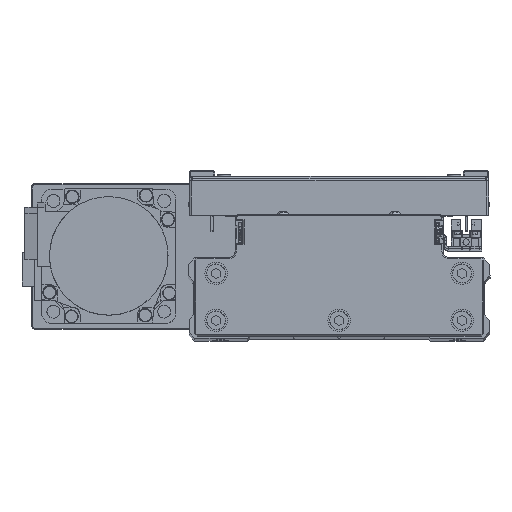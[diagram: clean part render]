
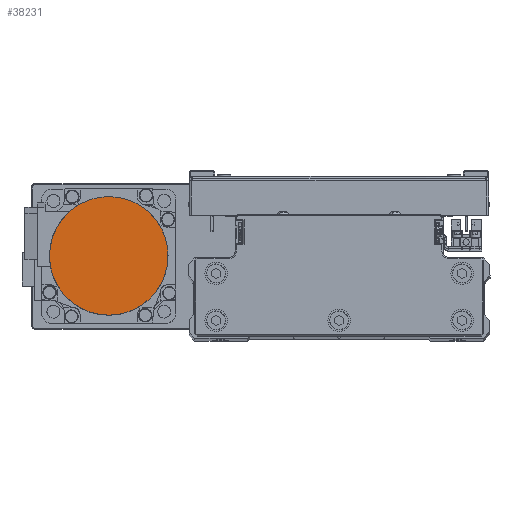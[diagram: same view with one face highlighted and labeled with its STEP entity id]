
A CAD part, top view. The second image highlights one B-rep face of the part: STEP entity #38231.
In plain terms, the highlighted planar face has unit normal (0, 0, 1) as drawn and (0, 0, -1) by its records, which use the part's own axes.
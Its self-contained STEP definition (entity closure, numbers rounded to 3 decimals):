
#18 = CARTESIAN_POINT ( 'NONE',  ( -3.469, -26.329, -109.7 ) ) ;
#230 = CARTESIAN_POINT ( 'NONE',  ( 23.819, -11.744, -109.7 ) ) ;
#2570 = CARTESIAN_POINT ( 'NONE',  ( 26.5, 0., -109.7 ) ) ;
#2791 = CARTESIAN_POINT ( 'NONE',  ( 8.539, 25.147, -109.7 ) ) ;
#3022 = CARTESIAN_POINT ( 'NONE',  ( -21.07, 16.165, -109.7 ) ) ;
#3377 = CARTESIAN_POINT ( 'NONE',  ( -11.744, -23.819, -109.7 ) ) ;
#3428 = EDGE_CURVE ( 'NONE', #27092, #23345, #10642, .T. ) ;
#3604 = CARTESIAN_POINT ( 'NONE',  ( 19.965, -17.512, -109.7 ) ) ;
#5071 = DIRECTION ( 'NONE',  ( 1., 0., 0. ) ) ;
#6131 = CARTESIAN_POINT ( 'NONE',  ( 16.165, 21.07, -109.7 ) ) ;
#6354 = CARTESIAN_POINT ( 'NONE',  ( -16.165, 21.07, -109.7 ) ) ;
#6704 = CARTESIAN_POINT ( 'NONE',  ( -17.512, -19.965, -109.7 ) ) ;
#6933 = CARTESIAN_POINT ( 'NONE',  ( 13.28, -22.998, -109.7 ) ) ;
#7859 = EDGE_LOOP ( 'NONE', ( #26247, #33723 ) ) ;
#8393 = PLANE ( 'NONE',  #39452 ) ;
#9462 = CARTESIAN_POINT ( 'NONE',  ( 21.07, 16.165, -109.7 ) ) ;
#9687 = CARTESIAN_POINT ( 'NONE',  ( -8.539, 25.147, -109.7 ) ) ;
#9911 = CARTESIAN_POINT ( 'NONE',  ( -26.5, 0., -109.7 ) ) ;
#10060 = CARTESIAN_POINT ( 'NONE',  ( -22.998, -13.28, -109.7 ) ) ;
#10271 = CARTESIAN_POINT ( 'NONE',  ( 6.871, -25.652, -109.7 ) ) ;
#10498 = CARTESIAN_POINT ( 'NONE',  ( 26.5, -1.734, -109.7 ) ) ;
#10642 = B_SPLINE_CURVE_WITH_KNOTS ( 'NONE', 3,
 ( #2570, #16158, #29721, #43285, #12819, #26389, #39949, #9462, #23044, #36622, #6131, #19712, #33263, #2791, #16381, #29946, #43510, #13033, #26602, #40174, #9687, #23265, #36847, #6354, #19935, #33492, #3022, #16605, #30160, #43727, #13261, #26832, #40399, #9911 ),
 .UNSPECIFIED., .F., .F.,
 ( 4, 2, 2, 2, 2, 2, 2, 2, 2, 2, 2, 2, 2, 2, 2, 2, 4 ),
 ( 0., 0.062, 0.125, 0.187, 0.25, 0.312, 0.375, 0.437, 0.5, 0.562, 0.625, 0.687, 0.75, 0.813, 0.875, 0.938, 1. ),
 .UNSPECIFIED. ) ;
#12396 = B_SPLINE_CURVE_WITH_KNOTS ( 'NONE', 3,
 ( #16742, #30314, #43865, #13395, #26968, #40545, #10060, #23628, #37205, #6704, #20293, #33857, #3377, #16965, #30531, #18, #13624, #27197, #40759, #10271, #23843, #37425, #6933, #20520, #34081, #3604, #17186, #30758, #230, #13835, #27414, #40984, #10498, #24064 ),
 .UNSPECIFIED., .F., .F.,
 ( 4, 2, 2, 2, 2, 2, 2, 2, 2, 2, 2, 2, 2, 2, 2, 2, 4 ),
 ( 0., 0.063, 0.125, 0.188, 0.25, 0.312, 0.375, 0.437, 0.5, 0.562, 0.625, 0.687, 0.75, 0.813, 0.875, 0.938, 1. ),
 .UNSPECIFIED. ) ;
#12819 = CARTESIAN_POINT ( 'NONE',  ( 25.147, 8.539, -109.7 ) ) ;
#13033 = CARTESIAN_POINT ( 'NONE',  ( -1.734, 26.5, -109.7 ) ) ;
#13261 = CARTESIAN_POINT ( 'NONE',  ( -25.652, 6.871, -109.7 ) ) ;
#13395 = CARTESIAN_POINT ( 'NONE',  ( -25.652, -6.871, -109.7 ) ) ;
#13624 = CARTESIAN_POINT ( 'NONE',  ( -1.734, -26.5, -109.7 ) ) ;
#13835 = CARTESIAN_POINT ( 'NONE',  ( 25.147, -8.539, -109.7 ) ) ;
#16158 = CARTESIAN_POINT ( 'NONE',  ( 26.5, 1.734, -109.7 ) ) ;
#16315 = CARTESIAN_POINT ( 'NONE',  ( 26.5, 0., -109.7 ) ) ;
#16381 = CARTESIAN_POINT ( 'NONE',  ( 6.871, 25.652, -109.7 ) ) ;
#16605 = CARTESIAN_POINT ( 'NONE',  ( -22.998, 13.28, -109.7 ) ) ;
#16742 = CARTESIAN_POINT ( 'NONE',  ( -26.5, 0., -109.7 ) ) ;
#16965 = CARTESIAN_POINT ( 'NONE',  ( -8.539, -25.147, -109.7 ) ) ;
#17186 = CARTESIAN_POINT ( 'NONE',  ( 21.07, -16.165, -109.7 ) ) ;
#19712 = CARTESIAN_POINT ( 'NONE',  ( 13.28, 22.998, -109.7 ) ) ;
#19935 = CARTESIAN_POINT ( 'NONE',  ( -17.512, 19.965, -109.7 ) ) ;
#20293 = CARTESIAN_POINT ( 'NONE',  ( -16.165, -21.07, -109.7 ) ) ;
#20520 = CARTESIAN_POINT ( 'NONE',  ( 16.165, -21.07, -109.7 ) ) ;
#21978 = CARTESIAN_POINT ( 'NONE',  ( 0., 0., -109.7 ) ) ;
#23044 = CARTESIAN_POINT ( 'NONE',  ( 19.965, 17.512, -109.7 ) ) ;
#23265 = CARTESIAN_POINT ( 'NONE',  ( -11.744, 23.819, -109.7 ) ) ;
#23345 = VERTEX_POINT ( 'NONE', #36558 ) ;
#23628 = CARTESIAN_POINT ( 'NONE',  ( -21.07, -16.165, -109.7 ) ) ;
#23843 = CARTESIAN_POINT ( 'NONE',  ( 8.539, -25.147, -109.7 ) ) ;
#24064 = CARTESIAN_POINT ( 'NONE',  ( 26.5, 0., -109.7 ) ) ;
#26247 = ORIENTED_EDGE ( 'NONE', *, *, #3428, .F. ) ;
#26389 = CARTESIAN_POINT ( 'NONE',  ( 23.819, 11.744, -109.7 ) ) ;
#26602 = CARTESIAN_POINT ( 'NONE',  ( -3.469, 26.329, -109.7 ) ) ;
#26832 = CARTESIAN_POINT ( 'NONE',  ( -26.329, 3.469, -109.7 ) ) ;
#26968 = CARTESIAN_POINT ( 'NONE',  ( -25.147, -8.539, -109.7 ) ) ;
#27092 = VERTEX_POINT ( 'NONE', #16315 ) ;
#27197 = CARTESIAN_POINT ( 'NONE',  ( 1.734, -26.5, -109.7 ) ) ;
#27414 = CARTESIAN_POINT ( 'NONE',  ( 25.652, -6.871, -109.7 ) ) ;
#29721 = CARTESIAN_POINT ( 'NONE',  ( 26.329, 3.469, -109.7 ) ) ;
#29946 = CARTESIAN_POINT ( 'NONE',  ( 3.469, 26.329, -109.7 ) ) ;
#30160 = CARTESIAN_POINT ( 'NONE',  ( -23.819, 11.744, -109.7 ) ) ;
#30314 = CARTESIAN_POINT ( 'NONE',  ( -26.5, -1.734, -109.7 ) ) ;
#30531 = CARTESIAN_POINT ( 'NONE',  ( -6.871, -25.652, -109.7 ) ) ;
#30758 = CARTESIAN_POINT ( 'NONE',  ( 22.998, -13.28, -109.7 ) ) ;
#33263 = CARTESIAN_POINT ( 'NONE',  ( 11.744, 23.819, -109.7 ) ) ;
#33492 = CARTESIAN_POINT ( 'NONE',  ( -19.965, 17.512, -109.7 ) ) ;
#33723 = ORIENTED_EDGE ( 'NONE', *, *, #40335, .F. ) ;
#33857 = CARTESIAN_POINT ( 'NONE',  ( -13.28, -22.998, -109.7 ) ) ;
#34081 = CARTESIAN_POINT ( 'NONE',  ( 17.512, -19.965, -109.7 ) ) ;
#35552 = DIRECTION ( 'NONE',  ( 0., 0., 1. ) ) ;
#36558 = CARTESIAN_POINT ( 'NONE',  ( -26.5, 0., -109.7 ) ) ;
#36622 = CARTESIAN_POINT ( 'NONE',  ( 17.512, 19.965, -109.7 ) ) ;
#36847 = CARTESIAN_POINT ( 'NONE',  ( -13.28, 22.998, -109.7 ) ) ;
#37205 = CARTESIAN_POINT ( 'NONE',  ( -19.965, -17.512, -109.7 ) ) ;
#37425 = CARTESIAN_POINT ( 'NONE',  ( 11.744, -23.819, -109.7 ) ) ;
#38231 = ADVANCED_FACE ( 'NONE', ( #38881 ), #8393, .F. ) ;
#38881 = FACE_OUTER_BOUND ( 'NONE', #7859, .T. ) ;
#39452 = AXIS2_PLACEMENT_3D ( 'NONE', #21978, #35552, #5071 ) ;
#39949 = CARTESIAN_POINT ( 'NONE',  ( 22.998, 13.28, -109.7 ) ) ;
#40174 = CARTESIAN_POINT ( 'NONE',  ( -6.871, 25.652, -109.7 ) ) ;
#40335 = EDGE_CURVE ( 'NONE', #23345, #27092, #12396, .T. ) ;
#40399 = CARTESIAN_POINT ( 'NONE',  ( -26.5, 1.734, -109.7 ) ) ;
#40545 = CARTESIAN_POINT ( 'NONE',  ( -23.819, -11.744, -109.7 ) ) ;
#40759 = CARTESIAN_POINT ( 'NONE',  ( 3.469, -26.329, -109.7 ) ) ;
#40984 = CARTESIAN_POINT ( 'NONE',  ( 26.329, -3.469, -109.7 ) ) ;
#43285 = CARTESIAN_POINT ( 'NONE',  ( 25.652, 6.871, -109.7 ) ) ;
#43510 = CARTESIAN_POINT ( 'NONE',  ( 1.734, 26.5, -109.7 ) ) ;
#43727 = CARTESIAN_POINT ( 'NONE',  ( -25.147, 8.539, -109.7 ) ) ;
#43865 = CARTESIAN_POINT ( 'NONE',  ( -26.329, -3.469, -109.7 ) ) ;
